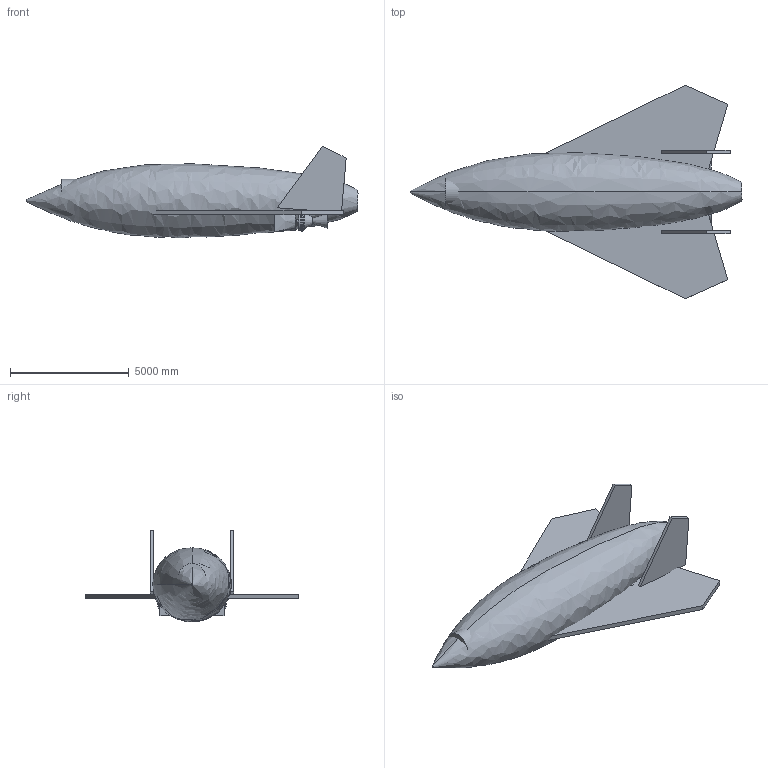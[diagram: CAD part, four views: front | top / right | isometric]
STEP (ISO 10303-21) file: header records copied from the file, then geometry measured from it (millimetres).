
FILE_DESCRIPTION(('Open CASCADE Model'),'2;1');
FILE_NAME('Open CASCADE Shape Model','2026-09-10T08:38:51',('Author'),( 'Open CASCADE'),'Open CASCADE STEP processor 7.9','Open CASCADE 7.9' ,'Unknown');
FILE_SCHEMA(('AUTOMOTIVE_DESIGN { 1 0 10303 214 1 1 1 1 }'));
Length unit declared in the file: millimetre
Products named in the file (33): oriole-mini; outer-mold-line-envelope; delta-wing--1; canted-tail-envelope--1; engine-1-housing; engine-1-intake-disk; engine-1-exhaust-disk; engine-1-support-carrier--80; engine-1-support-carrier-80; engine-1-central-drive-envelope; engine-1-fuel-manifold; engine-1-air-inlet-envelope; engine-1-collector-envelope; engine-1-variable-nozzle-envelope; engine-1-oxygen-manifold; engine-1-air-isolation-envelope; delta-wing-1; canted-tail-envelope-1; engine1-housing; engine1-intake-disk; engine1-exhaust-disk; engine1-support-carrier--80; engine1-support-carrier-80; engine1-central-drive-envelope; engine1-fuel-manifold; engine1-air-inlet-envelope; engine1-collector-envelope; engine1-variable-nozzle-envelope; engine1-oxygen-manifold; engine1-air-isolation-envelope; methane-tank-volume; oxygen-tank-volume; one-person-cabin-envelope
Assembly tree (32 placements, depth 2):
  oriole-mini
    outer-mold-line-envelope
    delta-wing--1
    canted-tail-envelope--1
    engine-1-housing
    engine-1-intake-disk
    engine-1-exhaust-disk
    engine-1-support-carrier--80
    engine-1-support-carrier-80
    engine-1-central-drive-envelope
    engine-1-fuel-manifold
    engine-1-air-inlet-envelope
    engine-1-collector-envelope
    engine-1-variable-nozzle-envelope
    engine-1-oxygen-manifold
    engine-1-air-isolation-envelope
    delta-wing-1
    canted-tail-envelope-1
    engine1-housing
    engine1-intake-disk
    engine1-exhaust-disk
    engine1-support-carrier--80
    engine1-support-carrier-80
    engine1-central-drive-envelope
    engine1-fuel-manifold
    engine1-air-inlet-envelope
    engine1-collector-envelope
    engine1-variable-nozzle-envelope
    engine1-oxygen-manifold
    engine1-air-isolation-envelope
    methane-tank-volume
    oxygen-tank-volume
    one-person-cabin-envelope
Bounding box: 14000 x 9000 x 3864.46 mm (x, y, z)
Volume: 111428537010.5 mm3; surface area: 311362568.1 mm2
Topology: 32 solids, 32 shells, 145 faces, 231 edges, 154 vertices
Faces by surface type: plane 92, cylinder 36, bspline 12, cone 4, extrusion 1
Full cylindrical faces by diameter (mm): 130 x2, 160 x4, 180 x4, 480 x4, 496 x4, 700 x4, 730 x2, 790 x4, 840 x2, 850 x2, 894 x2, 2240 x2
Entity records: 7578 total; most frequent: CARTESIAN_POINT 1527, DIRECTION 1088, VECTOR 480, LINE 479, ORIENTED_EDGE 462, PCURVE 462, DEFINITIONAL_REPRESENTATION 462, AXIS2_PLACEMENT_3D 258
